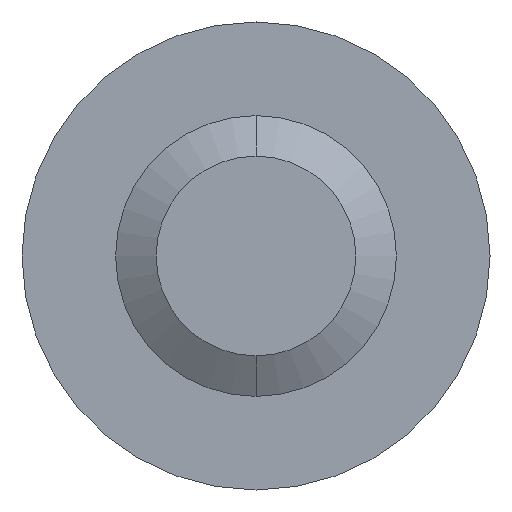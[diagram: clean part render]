
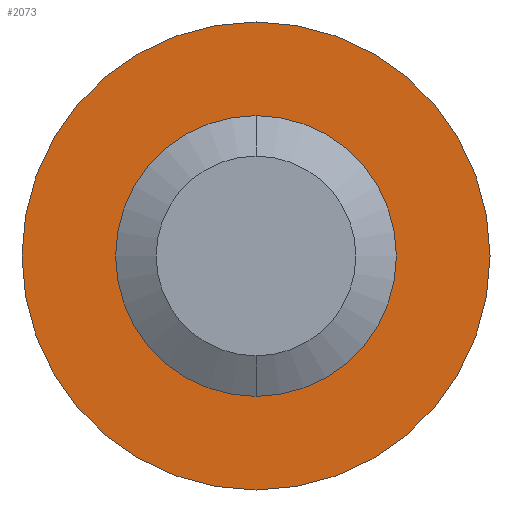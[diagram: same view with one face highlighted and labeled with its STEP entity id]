
A CAD part, front view. The second image highlights one B-rep face of the part: STEP entity #2073.
In plain terms, the highlighted planar face has unit normal (0, -1, 0).
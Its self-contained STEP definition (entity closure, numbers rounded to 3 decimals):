
#108 = DIRECTION ( 'NONE',  ( 0., 1., 0. ) ) ;
#143 = CARTESIAN_POINT ( 'NONE',  ( 0., 40., 0. ) ) ;
#259 = EDGE_CURVE ( 'NONE', #2197, #2554, #4588, .T. ) ;
#456 = AXIS2_PLACEMENT_3D ( 'NONE', #143, #1234, #3823 ) ;
#690 = EDGE_CURVE ( 'NONE', #2554, #2197, #4363, .T. ) ;
#705 = CARTESIAN_POINT ( 'NONE',  ( 0., 40., 0. ) ) ;
#814 = CIRCLE ( 'NONE', #1509, 3. ) ;
#838 = FACE_OUTER_BOUND ( 'NONE', #1472, .T. ) ;
#1110 = DIRECTION ( 'NONE',  ( 0., 0., 1. ) ) ;
#1234 = DIRECTION ( 'NONE',  ( 0., 1., 0. ) ) ;
#1339 = EDGE_LOOP ( 'NONE', ( #3795, #4441 ) ) ;
#1472 = EDGE_LOOP ( 'NONE', ( #2226, #1793 ) ) ;
#1509 = AXIS2_PLACEMENT_3D ( 'NONE', #705, #3662, #2512 ) ;
#1793 = ORIENTED_EDGE ( 'NONE', *, *, #690, .F. ) ;
#1971 = PLANE ( 'NONE',  #456 ) ;
#1977 = AXIS2_PLACEMENT_3D ( 'NONE', #2008, #4244, #2080 ) ;
#2008 = CARTESIAN_POINT ( 'NONE',  ( 0., 40., 0. ) ) ;
#2073 = ADVANCED_FACE ( 'NONE', ( #838, #3130 ), #1971, .F. ) ;
#2080 = DIRECTION ( 'NONE',  ( 0., 0., 1. ) ) ;
#2106 = CARTESIAN_POINT ( 'NONE',  ( 0., 40., -3. ) ) ;
#2197 = VERTEX_POINT ( 'NONE', #3195 ) ;
#2206 = CARTESIAN_POINT ( 'NONE',  ( 0., 40., 3. ) ) ;
#2226 = ORIENTED_EDGE ( 'NONE', *, *, #259, .F. ) ;
#2293 = AXIS2_PLACEMENT_3D ( 'NONE', #2960, #108, #1110 ) ;
#2335 = VERTEX_POINT ( 'NONE', #2206 ) ;
#2512 = DIRECTION ( 'NONE',  ( 0., 0., 1. ) ) ;
#2522 = DIRECTION ( 'NONE',  ( 0., 0., 1. ) ) ;
#2554 = VERTEX_POINT ( 'NONE', #4501 ) ;
#2588 = VERTEX_POINT ( 'NONE', #2106 ) ;
#2604 = CIRCLE ( 'NONE', #2293, 3. ) ;
#2915 = DIRECTION ( 'NONE',  ( 0., 1., 0. ) ) ;
#2960 = CARTESIAN_POINT ( 'NONE',  ( 0., 40., 0. ) ) ;
#3130 = FACE_BOUND ( 'NONE', #1339, .T. ) ;
#3195 = CARTESIAN_POINT ( 'NONE',  ( 0., 40., -5. ) ) ;
#3296 = EDGE_CURVE ( 'NONE', #2335, #2588, #814, .T. ) ;
#3421 = AXIS2_PLACEMENT_3D ( 'NONE', #4016, #2915, #2522 ) ;
#3662 = DIRECTION ( 'NONE',  ( 0., 1., 0. ) ) ;
#3795 = ORIENTED_EDGE ( 'NONE', *, *, #4517, .T. ) ;
#3823 = DIRECTION ( 'NONE',  ( 0., 0., 1. ) ) ;
#4016 = CARTESIAN_POINT ( 'NONE',  ( 0., 40., 0. ) ) ;
#4244 = DIRECTION ( 'NONE',  ( 0., 1., 0. ) ) ;
#4363 = CIRCLE ( 'NONE', #1977, 5. ) ;
#4441 = ORIENTED_EDGE ( 'NONE', *, *, #3296, .T. ) ;
#4501 = CARTESIAN_POINT ( 'NONE',  ( 0., 40., 5. ) ) ;
#4517 = EDGE_CURVE ( 'NONE', #2588, #2335, #2604, .T. ) ;
#4588 = CIRCLE ( 'NONE', #3421, 5. ) ;
